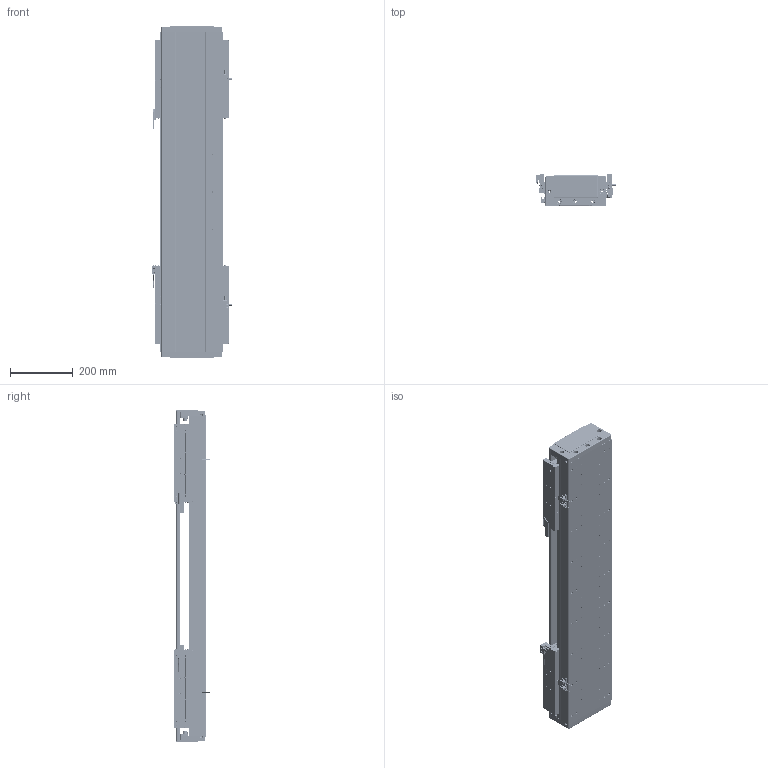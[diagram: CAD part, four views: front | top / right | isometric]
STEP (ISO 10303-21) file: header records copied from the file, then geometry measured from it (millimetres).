
FILE_DESCRIPTION (( 'STEP AP203' ), '1' );
FILE_NAME ('DA-C195-2-C3-T440-C010-0.2 眻盄萇儂.STEP', '2025-08-14T02:24:04', ( '' ), ( '' ), 'SwSTEP 2.0', 'SolidWorks 2019', '' );
FILE_SCHEMA (( 'CONFIG_CONTROL_DESIGN' ));
Length unit declared in the file: millimetre
Products named in the file (16): CU195-C3賑輸-俋楷; DA-C195-2-C3-T440-C010-0.2 眻盄萇儂; DA165-GYP-00 光电感应片(默认); IU-CU195-L-00 菁釱(L1020); PM-T45ㄗ侂狟ㄘ; DA195-DG-H-00  端盖（压铸镂空版）; IU-CU195-L 菁釱絳寢; DKW-KGZ-ZJ-00 中间光电开关支架; DKW-GYP-ZJ-00 笢潔嫖萇覜茼え; MS200 棠掑喜S315-T240; 66156-0001-003-00 裔啣; LMT黍杅芛; DKW168-HXJ-ZJ-00 笢潔滅袉砎蝶; 葩璃 DA95-GT-T-00; PM-Y65嫖萇羲壽郪璃; DA95-HXJ-00 遣喳砎蝶
Assembly tree (28 placements, depth 3):
  DA-C195-2-C3-T440-C010-0.2 眻盄萇儂
    IU-CU195-L 菁釱絳寢
      IU-CU195-L-00 菁釱(L1020)
      葩璃 DA95-GT-T-00  x4
    LMT黍杅芛  x2
    MS200 棠掑喜S315-T240
    PM-T45ㄗ侂狟ㄘ  x4
    DA165-GYP-00 光电感应片(默认)  x2
    DA195-DG-H-00  端盖（压铸镂空版）  x2
    DA95-HXJ-00 遣喳砎蝶  x4
    PM-Y65嫖萇羲壽郪璃
    66156-0001-003-00 裔啣
    DKW168-HXJ-ZJ-00 笢潔滅袉砎蝶
    DKW-GYP-ZJ-00 笢潔嫖萇覜茼え
    DKW-KGZ-ZJ-00 中间光电开关支架
    CU195-C3賑輸-俋楷  x2
Bounding box: 258.2 x 115.6 x 1060 mm (x, y, z)
Volume: 9572714.1 mm3; surface area: 2595319.3 mm2
Topology: 146 solids, 218 shells, 7712 faces, 19432 edges, 11815 vertices
Faces by surface type: cylinder 3144, plane 2784, cone 914, bspline 718, torus 80, sphere 72
Entity records: 152249 total; most frequent: CARTESIAN_POINT 46246, ORIENTED_EDGE 22050, DIRECTION 21096, EDGE_CURVE 11025, AXIS2_PLACEMENT_3D 7683, VERTEX_POINT 6968, LINE 5730, VECTOR 5730
